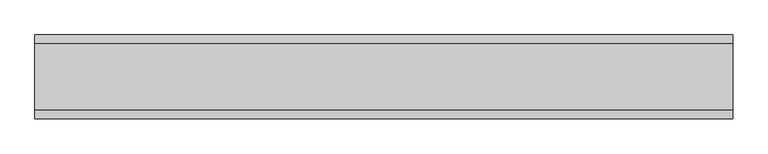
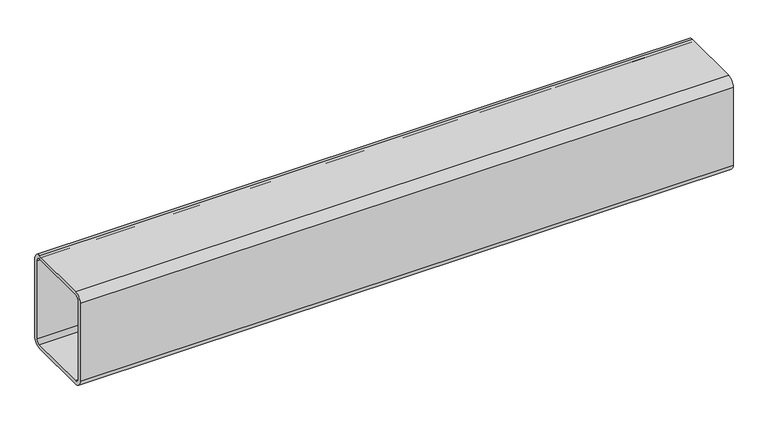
"""IFC4 building model written with IfcOpenShell, lengths in millimetres: beam geometry, Труба прямоугольного сечения (ТУ 67-2287-80) Балки : труба200x160x8."""

from ifc_helpers import new_model, si_unit, point, frame, frame_2d, origin, place, context, project, spatial, polyline, circle_curve, trimmed, segment, composite_curve, outline, extrude, source, transform, mapped, element, save


def beam_0f3894a2(model_context):
    return source(origin(), model_context, "Body", "SweptSolid", [
        extrude(outline(composite_curve([segment(polyline([(-64.0, 100.0), (64.0, 100.0)]), True, "CONTINUOUS"), segment(trimmed(circle_curve(frame_2d((64.0, 84.0)), 16.0), [point((64.0, 100.0))], [point((80.0, 84.0))], False, "CARTESIAN"), True, "CONTINUOUS"), segment(polyline([(80.0, 84.0), (80.0, -84.0)]), True, "CONTINUOUS"), segment(trimmed(circle_curve(frame_2d((64.0, -84.0)), 16.0), [point((80.0, -84.0))], [point((64.0, -100.0))], False, "CARTESIAN"), True, "CONTINUOUS"), segment(polyline([(64.0, -100.0), (-64.0, -100.0)]), True, "CONTINUOUS"), segment(trimmed(circle_curve(frame_2d((-64.0, -84.0)), 16.0), [point((-64.0, -100.0))], [point((-80.0, -84.0))], False, "CARTESIAN"), True, "CONTINUOUS"), segment(polyline([(-80.0, -84.0), (-80.0, 84.0)]), True, "CONTINUOUS"), segment(trimmed(circle_curve(frame_2d((-64.0, 84.0)), 16.0), [point((-80.0, 84.0))], [point((-64.0, 100.0))], False, "CARTESIAN"), True, "CONTINUOUS")], self_intersect=False), holes=[composite_curve([segment(trimmed(circle_curve(frame_2d((-64.0, 84.0)), 8.0), [point((-64.0, 92.0))], [point((-72.0, 84.0))], True, "CARTESIAN"), True, "CONTINUOUS"), segment(polyline([(-72.0, 84.0), (-72.0, -84.0)]), True, "CONTINUOUS"), segment(trimmed(circle_curve(frame_2d((-64.0, -84.0)), 8.0), [point((-72.0, -84.0))], [point((-64.0, -92.0))], True, "CARTESIAN"), True, "CONTINUOUS"), segment(polyline([(-64.0, -92.0), (64.0, -92.0)]), True, "CONTINUOUS"), segment(trimmed(circle_curve(frame_2d((64.0, -84.0)), 8.0), [point((64.0, -92.0))], [point((72.0, -84.0))], True, "CARTESIAN"), True, "CONTINUOUS"), segment(polyline([(72.0, -84.0), (72.0, 84.0)]), True, "CONTINUOUS"), segment(trimmed(circle_curve(frame_2d((64.0, 84.0)), 8.0), [point((72.0, 84.0))], [point((64.0, 92.0))], True, "CARTESIAN"), True, "CONTINUOUS"), segment(polyline([(64.0, 92.0), (-64.0, 92.0)]), True, "CONTINUOUS")], self_intersect=False)]), frame((-657.5, 0.0, 0.0), z_axis=(1.0, 0.0, 0.0), x_axis=(0.0, 1.0, 0.0)), (0.0, 0.0, 1.0), 1334.0),
    ])


if __name__ == "__main__":
    model = new_model("IFC4")
    model_context = context("Model", 3, world=origin())
    ifc_project = project(units=[si_unit("LENGTHUNIT", "METRE", prefix="MILLI")], contexts=[model_context])
    site = spatial("IfcSite", under=ifc_project)
    building = spatial("IfcBuilding", under=site)
    placement = place(None, origin())
    beam_shape = beam_0f3894a2(model_context)
    element("IfcBeam", 1, ObjectType="Труба прямоугольного сечения (ТУ 67-2287-80) Балки : труба200x160x8", at=placement, inside=building, context=model_context, shape_type="MappedRepresentation", body=[
        mapped(beam_shape, transform((0.0, 0.0, 0.0), x_axis=(1.0, 0.0, 0.0), y_axis=(0.0, 1.0, 0.0), z_axis=(0.0, 0.0, 1.0))),
    ])
    save(model, "model.ifc")
